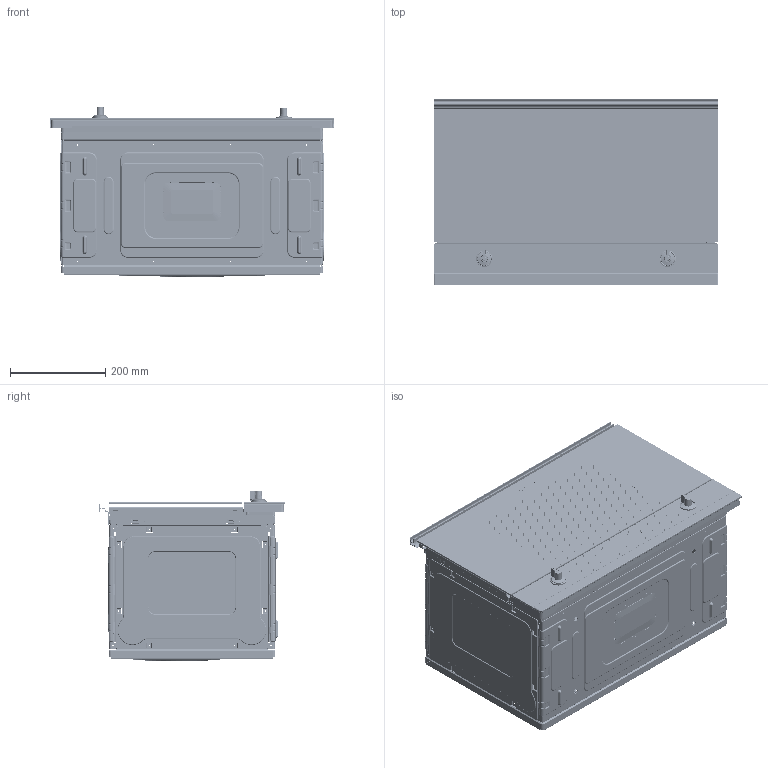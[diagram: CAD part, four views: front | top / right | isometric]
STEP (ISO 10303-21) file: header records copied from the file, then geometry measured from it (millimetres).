
FILE_DESCRIPTION(/* description */ (''),/* implementation_level */ '2;1');
FILE_NAME(/* name */ 'MP122.stp',/* time_stamp */ '2018-02-07T10:47:03+01:00',/* author */ (''),/* organization */ (''),/* preprocessor_version */ 'ST-DEVELOPER v16',/* originating_system */ 'SIEMENS PLM Software NX 11.0',/* authorisation */ '');
FILE_SCHEMA (('AUTOMOTIVE_DESIGN { 1 0 10303 214 3 1 1 1 }'));
Products named in the file (1): FAVE18E4B391rt9y
Bounding box: 597.09 x 390.05 x 357.11 mm (x, y, z)
Volume: 1792618.8 mm3; surface area: 2788117.6 mm2
Topology: 19 solids, 19 shells, 11638 faces, 29123 edges, 17604 vertices
Faces by surface type: plane 4670, cylinder 4418, bspline 924, torus 886, cone 678, sphere 60, extrusion 2
Full cylindrical faces by diameter (mm): 3 x8
Entity records: 447536 total; most frequent: CARTESIAN_POINT 165131, DIRECTION 59203, ORIENTED_EDGE 58028, EDGE_CURVE 29014, AXIS2_PLACEMENT_3D 21705, VERTEX_POINT 17588, VECTOR 15793, LINE 15791
